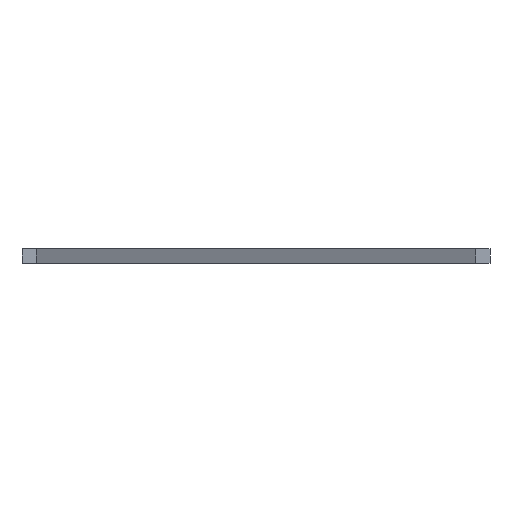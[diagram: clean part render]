
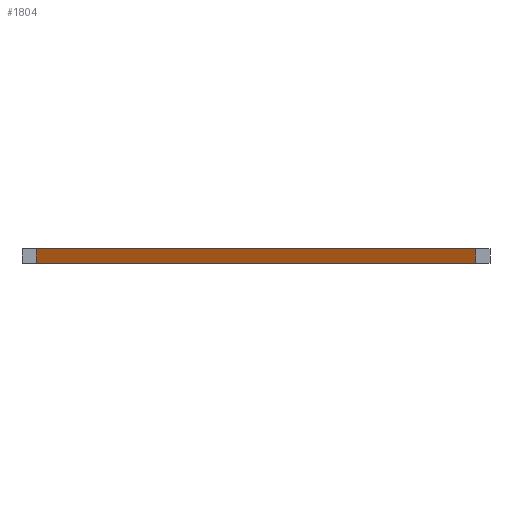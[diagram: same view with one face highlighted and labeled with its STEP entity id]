
A CAD part, left-side view. The second image highlights one B-rep face of the part: STEP entity #1804.
In plain terms, the highlighted planar face has unit normal (-0.876, 0.482, 0).
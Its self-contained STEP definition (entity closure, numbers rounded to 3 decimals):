
#21 = EDGE_CURVE('',#22,#24,#26,.T.);
#22 = VERTEX_POINT('',#23);
#23 = CARTESIAN_POINT('',(20.54,18.,0.));
#24 = VERTEX_POINT('',#25);
#25 = CARTESIAN_POINT('',(20.54,18.,18.));
#26 = SURFACE_CURVE('',#27,(#31,#43),.PCURVE_S1.);
#27 = LINE('',#28,#29);
#28 = CARTESIAN_POINT('',(20.54,18.,0.));
#29 = VECTOR('',#30,1.);
#30 = DIRECTION('',(0.,0.,1.));
#31 = PCURVE('',#32,#37);
#32 = PLANE('',#33);
#33 = AXIS2_PLACEMENT_3D('',#34,#35,#36);
#34 = CARTESIAN_POINT('',(20.54,18.,0.));
#35 = DIRECTION('',(0.,1.,0.));
#36 = DIRECTION('',(1.,0.,0.));
#37 = DEFINITIONAL_REPRESENTATION('',(#38),#42);
#38 = LINE('',#39,#40);
#39 = CARTESIAN_POINT('',(0.,0.));
#40 = VECTOR('',#41,1.);
#41 = DIRECTION('',(0.,-1.));
#42 = ( GEOMETRIC_REPRESENTATION_CONTEXT(2) 
PARAMETRIC_REPRESENTATION_CONTEXT() REPRESENTATION_CONTEXT('2D SPACE',''
  ) );
#43 = PCURVE('',#44,#49);
#44 = PLANE('',#45);
#45 = AXIS2_PLACEMENT_3D('',#46,#47,#48);
#46 = CARTESIAN_POINT('',(330.54,582.,0.));
#47 = DIRECTION('',(0.876,-0.482,0.));
#48 = DIRECTION('',(-0.482,-0.876,0.));
#49 = DEFINITIONAL_REPRESENTATION('',(#50),#54);
#50 = LINE('',#51,#52);
#51 = CARTESIAN_POINT('',(643.581,0.));
#52 = VECTOR('',#53,1.);
#53 = DIRECTION('',(0.,-1.));
#54 = ( GEOMETRIC_REPRESENTATION_CONTEXT(2) 
PARAMETRIC_REPRESENTATION_CONTEXT() REPRESENTATION_CONTEXT('2D SPACE',''
  ) );
#72 = PLANE('',#73);
#73 = AXIS2_PLACEMENT_3D('',#74,#75,#76);
#74 = CARTESIAN_POINT('',(500.,231.351,18.));
#75 = DIRECTION('',(0.,0.,1.));
#76 = DIRECTION('',(1.,0.,-0.));
#126 = PLANE('',#127);
#127 = AXIS2_PLACEMENT_3D('',#128,#129,#130);
#128 = CARTESIAN_POINT('',(500.,231.351,0.));
#129 = DIRECTION('',(0.,0.,1.));
#130 = DIRECTION('',(1.,0.,-0.));
#1701 = PLANE('',#1702);
#1702 = AXIS2_PLACEMENT_3D('',#1703,#1704,#1705);
#1703 = CARTESIAN_POINT('',(355.,582.,0.));
#1704 = DIRECTION('',(0.,-1.,0.));
#1705 = DIRECTION('',(-1.,0.,0.));
#1739 = VERTEX_POINT('',#1740);
#1740 = CARTESIAN_POINT('',(330.54,582.,18.));
#1761 = EDGE_CURVE('',#1762,#1739,#1764,.T.);
#1762 = VERTEX_POINT('',#1763);
#1763 = CARTESIAN_POINT('',(330.54,582.,0.));
#1764 = SURFACE_CURVE('',#1765,(#1769,#1776),.PCURVE_S1.);
#1765 = LINE('',#1766,#1767);
#1766 = CARTESIAN_POINT('',(330.54,582.,0.));
#1767 = VECTOR('',#1768,1.);
#1768 = DIRECTION('',(0.,0.,1.));
#1769 = PCURVE('',#1701,#1770);
#1770 = DEFINITIONAL_REPRESENTATION('',(#1771),#1775);
#1771 = LINE('',#1772,#1773);
#1772 = CARTESIAN_POINT('',(24.46,0.));
#1773 = VECTOR('',#1774,1.);
#1774 = DIRECTION('',(0.,-1.));
#1775 = ( GEOMETRIC_REPRESENTATION_CONTEXT(2) 
PARAMETRIC_REPRESENTATION_CONTEXT() REPRESENTATION_CONTEXT('2D SPACE',''
  ) );
#1776 = PCURVE('',#44,#1777);
#1777 = DEFINITIONAL_REPRESENTATION('',(#1778),#1782);
#1778 = LINE('',#1779,#1780);
#1779 = CARTESIAN_POINT('',(0.,0.));
#1780 = VECTOR('',#1781,1.);
#1781 = DIRECTION('',(0.,-1.));
#1782 = ( GEOMETRIC_REPRESENTATION_CONTEXT(2) 
PARAMETRIC_REPRESENTATION_CONTEXT() REPRESENTATION_CONTEXT('2D SPACE',''
  ) );
#1804 = ADVANCED_FACE('',(#1805),#44,.F.);
#1805 = FACE_BOUND('',#1806,.F.);
#1806 = EDGE_LOOP('',(#1807,#1808,#1829,#1830));
#1807 = ORIENTED_EDGE('',*,*,#1761,.T.);
#1808 = ORIENTED_EDGE('',*,*,#1809,.T.);
#1809 = EDGE_CURVE('',#1739,#24,#1810,.T.);
#1810 = SURFACE_CURVE('',#1811,(#1815,#1822),.PCURVE_S1.);
#1811 = LINE('',#1812,#1813);
#1812 = CARTESIAN_POINT('',(330.54,582.,18.));
#1813 = VECTOR('',#1814,1.);
#1814 = DIRECTION('',(-0.482,-0.876,0.));
#1815 = PCURVE('',#44,#1816);
#1816 = DEFINITIONAL_REPRESENTATION('',(#1817),#1821);
#1817 = LINE('',#1818,#1819);
#1818 = CARTESIAN_POINT('',(0.,-18.));
#1819 = VECTOR('',#1820,1.);
#1820 = DIRECTION('',(1.,0.));
#1821 = ( GEOMETRIC_REPRESENTATION_CONTEXT(2) 
PARAMETRIC_REPRESENTATION_CONTEXT() REPRESENTATION_CONTEXT('2D SPACE',''
  ) );
#1822 = PCURVE('',#72,#1823);
#1823 = DEFINITIONAL_REPRESENTATION('',(#1824),#1828);
#1824 = LINE('',#1825,#1826);
#1825 = CARTESIAN_POINT('',(-169.46,350.649));
#1826 = VECTOR('',#1827,1.);
#1827 = DIRECTION('',(-0.482,-0.876));
#1828 = ( GEOMETRIC_REPRESENTATION_CONTEXT(2) 
PARAMETRIC_REPRESENTATION_CONTEXT() REPRESENTATION_CONTEXT('2D SPACE',''
  ) );
#1829 = ORIENTED_EDGE('',*,*,#21,.F.);
#1830 = ORIENTED_EDGE('',*,*,#1831,.F.);
#1831 = EDGE_CURVE('',#1762,#22,#1832,.T.);
#1832 = SURFACE_CURVE('',#1833,(#1837,#1844),.PCURVE_S1.);
#1833 = LINE('',#1834,#1835);
#1834 = CARTESIAN_POINT('',(330.54,582.,0.));
#1835 = VECTOR('',#1836,1.);
#1836 = DIRECTION('',(-0.482,-0.876,0.));
#1837 = PCURVE('',#44,#1838);
#1838 = DEFINITIONAL_REPRESENTATION('',(#1839),#1843);
#1839 = LINE('',#1840,#1841);
#1840 = CARTESIAN_POINT('',(0.,0.));
#1841 = VECTOR('',#1842,1.);
#1842 = DIRECTION('',(1.,0.));
#1843 = ( GEOMETRIC_REPRESENTATION_CONTEXT(2) 
PARAMETRIC_REPRESENTATION_CONTEXT() REPRESENTATION_CONTEXT('2D SPACE',''
  ) );
#1844 = PCURVE('',#126,#1845);
#1845 = DEFINITIONAL_REPRESENTATION('',(#1846),#1850);
#1846 = LINE('',#1847,#1848);
#1847 = CARTESIAN_POINT('',(-169.46,350.649));
#1848 = VECTOR('',#1849,1.);
#1849 = DIRECTION('',(-0.482,-0.876));
#1850 = ( GEOMETRIC_REPRESENTATION_CONTEXT(2) 
PARAMETRIC_REPRESENTATION_CONTEXT() REPRESENTATION_CONTEXT('2D SPACE',''
  ) );
